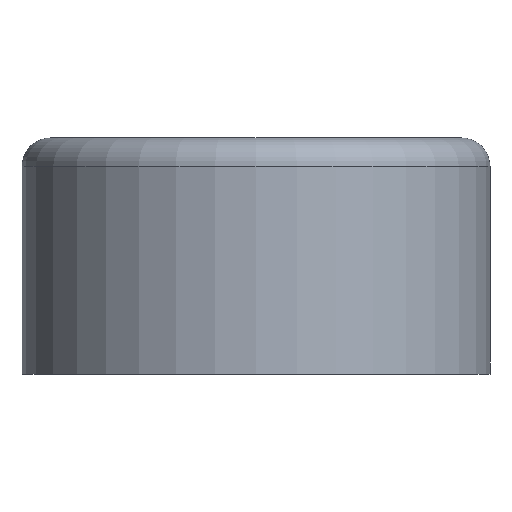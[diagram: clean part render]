
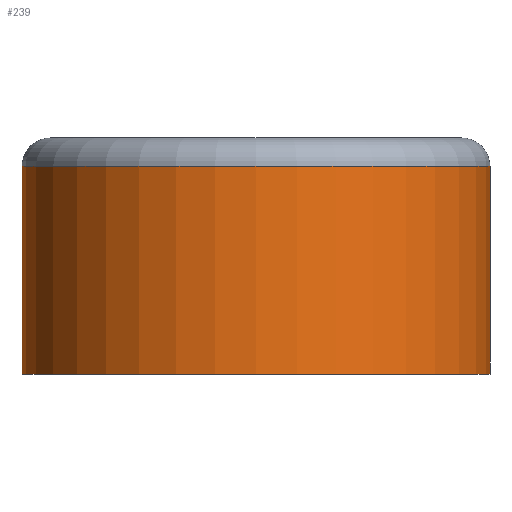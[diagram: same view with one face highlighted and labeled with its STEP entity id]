
A CAD part, front view. The second image highlights one B-rep face of the part: STEP entity #239.
In plain terms, the highlighted cylindrical face has radius 16.5 mm (diameter 33 mm), a partial arc.
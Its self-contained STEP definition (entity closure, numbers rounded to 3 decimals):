
#22 = CARTESIAN_POINT ( 'NONE',  ( 0., 0., 0. ) ) ;
#30 = CARTESIAN_POINT ( 'NONE',  ( -16.5, 0., 14.647 ) ) ;
#32 = EDGE_CURVE ( 'NONE', #85, #159, #367, .T. ) ;
#36 = CIRCLE ( 'NONE', #339, 16.5 ) ;
#37 = VECTOR ( 'NONE', #98, 1000. ) ;
#40 = EDGE_CURVE ( 'NONE', #105, #177, #70, .T. ) ;
#47 = CARTESIAN_POINT ( 'NONE',  ( 0., 0., 14.647 ) ) ;
#50 = DIRECTION ( 'NONE',  ( 0., 0., -1. ) ) ;
#60 = CARTESIAN_POINT ( 'NONE',  ( 0., 0., 0. ) ) ;
#70 = LINE ( 'NONE', #91, #37 ) ;
#75 = VECTOR ( 'NONE', #172, 1000. ) ;
#85 = VERTEX_POINT ( 'NONE', #383 ) ;
#91 = CARTESIAN_POINT ( 'NONE',  ( -16.5, 0., 0. ) ) ;
#98 = DIRECTION ( 'NONE',  ( 0., 0., -1. ) ) ;
#105 = VERTEX_POINT ( 'NONE', #30 ) ;
#123 = DIRECTION ( 'NONE',  ( -1., 0., 0. ) ) ;
#157 = DIRECTION ( 'NONE',  ( -1., 0., 0. ) ) ;
#159 = VERTEX_POINT ( 'NONE', #190 ) ;
#164 = DIRECTION ( 'NONE',  ( 0., 0., -1. ) ) ;
#172 = DIRECTION ( 'NONE',  ( 0., 0., -1. ) ) ;
#177 = VERTEX_POINT ( 'NONE', #446 ) ;
#190 = CARTESIAN_POINT ( 'NONE',  ( 16.5, 0., 0. ) ) ;
#200 = CARTESIAN_POINT ( 'NONE',  ( 16.5, 0., 0. ) ) ;
#214 = CYLINDRICAL_SURFACE ( 'NONE', #391, 16.5 ) ;
#237 = ORIENTED_EDGE ( 'NONE', *, *, #40, .T. ) ;
#239 = ADVANCED_FACE ( 'NONE', ( #344 ), #214, .T. ) ;
#269 = ORIENTED_EDGE ( 'NONE', *, *, #32, .F. ) ;
#276 = ORIENTED_EDGE ( 'NONE', *, *, #297, .T. ) ;
#278 = EDGE_CURVE ( 'NONE', #159, #177, #418, .T. ) ;
#281 = EDGE_LOOP ( 'NONE', ( #269, #276, #237, #395 ) ) ;
#294 = AXIS2_PLACEMENT_3D ( 'NONE', #60, #308, #123 ) ;
#297 = EDGE_CURVE ( 'NONE', #85, #105, #36, .T. ) ;
#308 = DIRECTION ( 'NONE',  ( 0., 0., -1. ) ) ;
#339 = AXIS2_PLACEMENT_3D ( 'NONE', #47, #50, #432 ) ;
#344 = FACE_OUTER_BOUND ( 'NONE', #281, .T. ) ;
#367 = LINE ( 'NONE', #200, #75 ) ;
#383 = CARTESIAN_POINT ( 'NONE',  ( 16.5, 0., 14.647 ) ) ;
#391 = AXIS2_PLACEMENT_3D ( 'NONE', #22, #164, #157 ) ;
#395 = ORIENTED_EDGE ( 'NONE', *, *, #278, .F. ) ;
#418 = CIRCLE ( 'NONE', #294, 16.5 ) ;
#432 = DIRECTION ( 'NONE',  ( -1., 0., 0. ) ) ;
#446 = CARTESIAN_POINT ( 'NONE',  ( -16.5, 0., 0. ) ) ;
